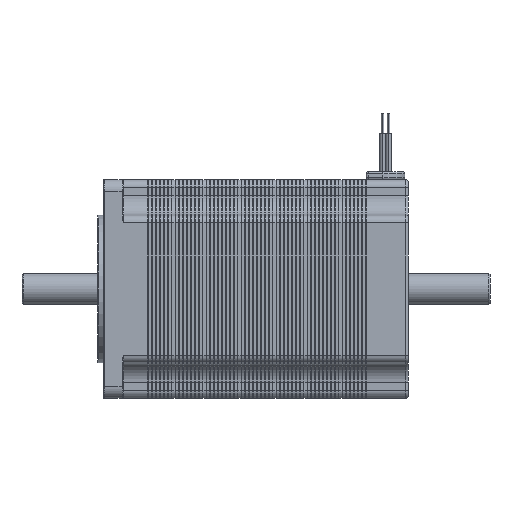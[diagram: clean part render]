
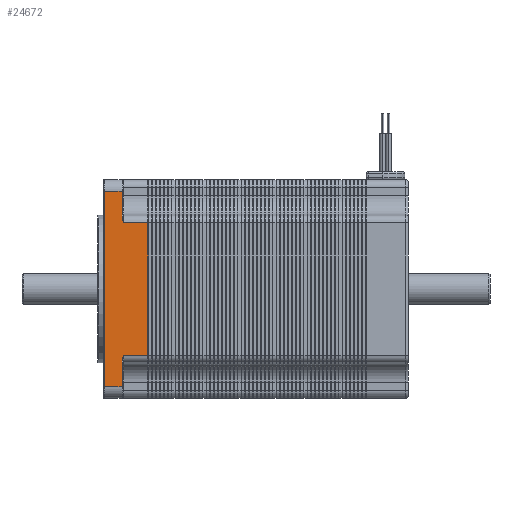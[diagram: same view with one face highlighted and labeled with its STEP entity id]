
A CAD part, left-side view. The second image highlights one B-rep face of the part: STEP entity #24672.
In plain terms, the highlighted planar face has unit normal (-1, 0, 0).
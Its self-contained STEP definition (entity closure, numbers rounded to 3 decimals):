
#1953 = DIRECTION ( 'NONE',  ( 0., 0., 1. ) ) ;
#3360 = ORIENTED_EDGE ( 'NONE', *, *, #182262, .F. ) ;
#4513 = EDGE_CURVE ( 'NONE', #173133, #65007, #112865, .T. ) ;
#6234 = LINE ( 'NONE', #76282, #16167 ) ;
#6497 = CARTESIAN_POINT ( 'NONE',  ( -28.15, 73.3, 17. ) ) ;
#6668 = FACE_OUTER_BOUND ( 'NONE', #168697, .T. ) ;
#7403 = VECTOR ( 'NONE', #143040, 1000. ) ;
#8130 = ORIENTED_EDGE ( 'NONE', *, *, #4513, .T. ) ;
#8172 = EDGE_CURVE ( 'NONE', #136160, #97363, #20189, .T. ) ;
#8705 = CARTESIAN_POINT ( 'NONE',  ( -28.15, 73.3, -17. ) ) ;
#8833 = EDGE_CURVE ( 'NONE', #70009, #23607, #9078, .T. ) ;
#9078 = LINE ( 'NONE', #65774, #30510 ) ;
#9892 = ORIENTED_EDGE ( 'NONE', *, *, #19002, .T. ) ;
#10599 = CARTESIAN_POINT ( 'NONE',  ( -28.15, 73.7, -18.04 ) ) ;
#11151 = DIRECTION ( 'NONE',  ( 0., 0., 1. ) ) ;
#15433 = ORIENTED_EDGE ( 'NONE', *, *, #8833, .T. ) ;
#16167 = VECTOR ( 'NONE', #91686, 1000. ) ;
#16472 = CARTESIAN_POINT ( 'NONE',  ( -28.15, 73.7, 18.04 ) ) ;
#18168 = DIRECTION ( 'NONE',  ( 0., -1., 0. ) ) ;
#19002 = EDGE_CURVE ( 'NONE', #68938, #173133, #145404, .T. ) ;
#19056 = CARTESIAN_POINT ( 'NONE',  ( -28.15, 73.7, -25.15 ) ) ;
#20189 = LINE ( 'NONE', #93121, #143426 ) ;
#20928 = CARTESIAN_POINT ( 'NONE',  ( -28.15, 73.7, 18.265 ) ) ;
#22337 = CARTESIAN_POINT ( 'NONE',  ( -28.15, 73.5, -25.15 ) ) ;
#23607 = VERTEX_POINT ( 'NONE', #156476 ) ;
#23863 = CARTESIAN_POINT ( 'NONE',  ( -28.15, 78.3, 25.15 ) ) ;
#24672 = ADVANCED_FACE ( 'NONE', ( #6668 ), #181283, .F. ) ;
#28594 = EDGE_CURVE ( 'NONE', #139034, #57516, #6234, .T. ) ;
#28684 = CARTESIAN_POINT ( 'NONE',  ( -28.15, 73.7, -18.265 ) ) ;
#30510 = VECTOR ( 'NONE', #96457, 1000. ) ;
#34613 = DIRECTION ( 'NONE',  ( 0., 0., -1. ) ) ;
#40779 = VERTEX_POINT ( 'NONE', #182047 ) ;
#40932 = CARTESIAN_POINT ( 'NONE',  ( -28.15, 73.7, 25.15 ) ) ;
#44995 = CARTESIAN_POINT ( 'NONE',  ( -28.15, 78.5, 17. ) ) ;
#45548 = EDGE_CURVE ( 'NONE', #65007, #70009, #49094, .T. ) ;
#49094 = LINE ( 'NONE', #181421, #140462 ) ;
#51933 = CARTESIAN_POINT ( 'NONE',  ( -28.15, 73.491, -17.403 ) ) ;
#52550 = CARTESIAN_POINT ( 'NONE',  ( -28.15, 67.1, 17. ) ) ;
#54258 = B_SPLINE_CURVE_WITH_KNOTS ( 'NONE', 3,
 ( #70995, #10599, #96091, #51933, #81598, #8705 ),
 .UNSPECIFIED., .F., .F.,
 ( 4, 2, 4 ),
 ( 0., 0.001, 0.001 ),
 .UNSPECIFIED. ) ;
#55230 = CARTESIAN_POINT ( 'NONE',  ( -28.15, 73.3, 17. ) ) ;
#56243 = VECTOR ( 'NONE', #71832, 1000. ) ;
#57516 = VERTEX_POINT ( 'NONE', #52550 ) ;
#65007 = VERTEX_POINT ( 'NONE', #40932 ) ;
#65774 = CARTESIAN_POINT ( 'NONE',  ( -28.15, 78.3, -25.15 ) ) ;
#66238 = CARTESIAN_POINT ( 'NONE',  ( -28.15, 73.7, 18.265 ) ) ;
#67369 = LINE ( 'NONE', #22337, #7403 ) ;
#68938 = VERTEX_POINT ( 'NONE', #55230 ) ;
#70009 = VERTEX_POINT ( 'NONE', #23863 ) ;
#70995 = CARTESIAN_POINT ( 'NONE',  ( -28.15, 73.7, -18.265 ) ) ;
#71832 = DIRECTION ( 'NONE',  ( 0., -1., 0. ) ) ;
#72142 = LINE ( 'NONE', #162962, #86736 ) ;
#76282 = CARTESIAN_POINT ( 'NONE',  ( -28.15, 67.1, -17. ) ) ;
#77626 = DIRECTION ( 'NONE',  ( 1., 0., 0. ) ) ;
#81598 = CARTESIAN_POINT ( 'NONE',  ( -28.15, 73.395, -17.201 ) ) ;
#82731 = CARTESIAN_POINT ( 'NONE',  ( -28.15, 67.1, -17. ) ) ;
#86736 = VECTOR ( 'NONE', #18168, 1000. ) ;
#91686 = DIRECTION ( 'NONE',  ( 0., 0., 1. ) ) ;
#93121 = CARTESIAN_POINT ( 'NONE',  ( -28.15, 73.7, -17. ) ) ;
#93237 = AXIS2_PLACEMENT_3D ( 'NONE', #107457, #77626, #34613 ) ;
#94210 = ORIENTED_EDGE ( 'NONE', *, *, #141248, .T. ) ;
#96091 = CARTESIAN_POINT ( 'NONE',  ( -28.15, 73.642, -17.823 ) ) ;
#96457 = DIRECTION ( 'NONE',  ( 0., 0., -1. ) ) ;
#97363 = VERTEX_POINT ( 'NONE', #28684 ) ;
#97416 = EDGE_CURVE ( 'NONE', #68938, #57516, #115044, .T. ) ;
#106077 = ORIENTED_EDGE ( 'NONE', *, *, #28594, .T. ) ;
#107457 = CARTESIAN_POINT ( 'NONE',  ( -28.15, 78.5, -17. ) ) ;
#109322 = ORIENTED_EDGE ( 'NONE', *, *, #97416, .F. ) ;
#112865 = LINE ( 'NONE', #142547, #120391 ) ;
#115044 = LINE ( 'NONE', #44995, #56243 ) ;
#115468 = EDGE_CURVE ( 'NONE', #97363, #40779, #54258, .T. ) ;
#118129 = CARTESIAN_POINT ( 'NONE',  ( -28.15, 73.642, 17.823 ) ) ;
#120391 = VECTOR ( 'NONE', #11151, 1000. ) ;
#124794 = DIRECTION ( 'NONE',  ( 0., 1., 0. ) ) ;
#128709 = ORIENTED_EDGE ( 'NONE', *, *, #8172, .T. ) ;
#133202 = ORIENTED_EDGE ( 'NONE', *, *, #115468, .T. ) ;
#136160 = VERTEX_POINT ( 'NONE', #19056 ) ;
#139034 = VERTEX_POINT ( 'NONE', #82731 ) ;
#140462 = VECTOR ( 'NONE', #124794, 1000. ) ;
#141248 = EDGE_CURVE ( 'NONE', #40779, #139034, #72142, .T. ) ;
#142547 = CARTESIAN_POINT ( 'NONE',  ( -28.15, 73.7, -17. ) ) ;
#143040 = DIRECTION ( 'NONE',  ( 0., 1., 0. ) ) ;
#143426 = VECTOR ( 'NONE', #1953, 1000. ) ;
#145404 = B_SPLINE_CURVE_WITH_KNOTS ( 'NONE', 3,
 ( #6497, #182051, #147873, #118129, #16472, #20928 ),
 .UNSPECIFIED., .F., .F.,
 ( 4, 2, 4 ),
 ( 0., 0.001, 0.001 ),
 .UNSPECIFIED. ) ;
#146841 = ORIENTED_EDGE ( 'NONE', *, *, #45548, .T. ) ;
#147873 = CARTESIAN_POINT ( 'NONE',  ( -28.15, 73.491, 17.403 ) ) ;
#156476 = CARTESIAN_POINT ( 'NONE',  ( -28.15, 78.3, -25.15 ) ) ;
#162962 = CARTESIAN_POINT ( 'NONE',  ( -28.15, 78.5, -17. ) ) ;
#168697 = EDGE_LOOP ( 'NONE', ( #146841, #15433, #3360, #128709, #133202, #94210, #106077, #109322, #9892, #8130 ) ) ;
#173133 = VERTEX_POINT ( 'NONE', #66238 ) ;
#181283 = PLANE ( 'NONE',  #93237 ) ;
#181421 = CARTESIAN_POINT ( 'NONE',  ( -28.15, 73.5, 25.15 ) ) ;
#182047 = CARTESIAN_POINT ( 'NONE',  ( -28.15, 73.3, -17. ) ) ;
#182051 = CARTESIAN_POINT ( 'NONE',  ( -28.15, 73.395, 17.202 ) ) ;
#182262 = EDGE_CURVE ( 'NONE', #136160, #23607, #67369, .T. ) ;
